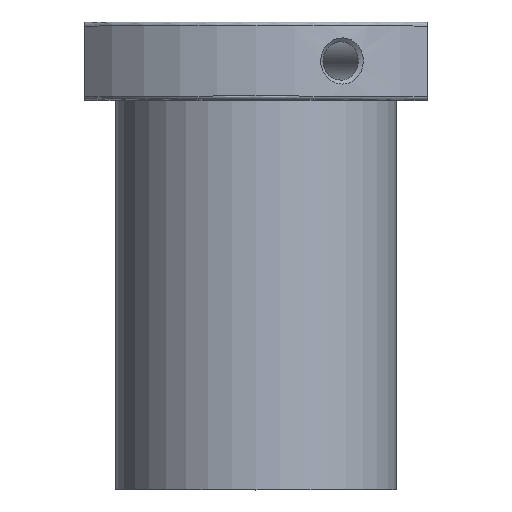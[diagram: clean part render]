
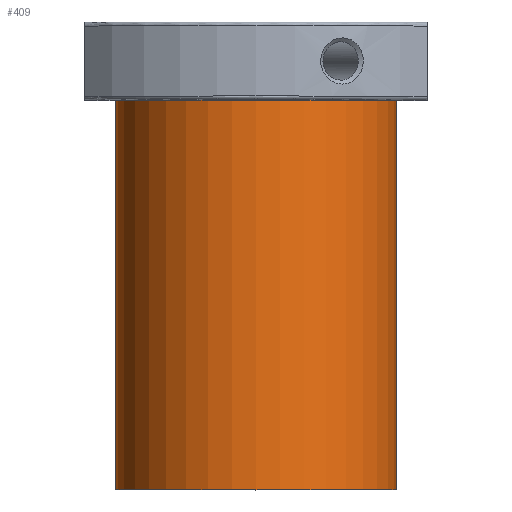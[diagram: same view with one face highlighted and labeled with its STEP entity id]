
A CAD part, top view. The second image highlights one B-rep face of the part: STEP entity #409.
In plain terms, the highlighted cylindrical face has radius 18 mm (diameter 36 mm), a full revolution.
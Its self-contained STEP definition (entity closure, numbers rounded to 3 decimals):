
#43=CYLINDRICAL_SURFACE('',#474,18.);
#62=LINE('',#907,#81);
#81=VECTOR('',#587,18.);
#107=FACE_OUTER_BOUND('',#138,.T.);
#138=EDGE_LOOP('',(#370,#371,#372,#373));
#170=CIRCLE('',#473,18.);
#171=CIRCLE('',#475,18.);
#218=VERTEX_POINT('',#902);
#219=VERTEX_POINT('',#905);
#272=EDGE_CURVE('',#218,#218,#170,.T.);
#273=EDGE_CURVE('',#219,#219,#171,.T.);
#274=EDGE_CURVE('',#219,#218,#62,.T.);
#370=ORIENTED_EDGE('',*,*,#273,.F.);
#371=ORIENTED_EDGE('',*,*,#274,.T.);
#372=ORIENTED_EDGE('',*,*,#272,.T.);
#373=ORIENTED_EDGE('',*,*,#274,.F.);
#409=ADVANCED_FACE('',(#107),#43,.T.);
#473=AXIS2_PLACEMENT_3D('',#903,#581,#582);
#474=AXIS2_PLACEMENT_3D('',#904,#583,#584);
#475=AXIS2_PLACEMENT_3D('',#906,#585,#586);
#581=DIRECTION('center_axis',(0.,1.,0.));
#582=DIRECTION('ref_axis',(1.,0.,0.));
#583=DIRECTION('center_axis',(0.,1.,0.));
#584=DIRECTION('ref_axis',(0.,0.,1.));
#585=DIRECTION('center_axis',(0.,1.,0.));
#586=DIRECTION('ref_axis',(1.,0.,0.));
#587=DIRECTION('',(0.,-1.,0.));
#902=CARTESIAN_POINT('',(0.,-60.,-18.));
#903=CARTESIAN_POINT('Origin',(0.,-60.,0.));
#904=CARTESIAN_POINT('Origin',(0.,-35.,0.));
#905=CARTESIAN_POINT('',(0.,-10.,-18.));
#906=CARTESIAN_POINT('Origin',(0.,-10.,0.));
#907=CARTESIAN_POINT('',(0.,-35.,-18.));
